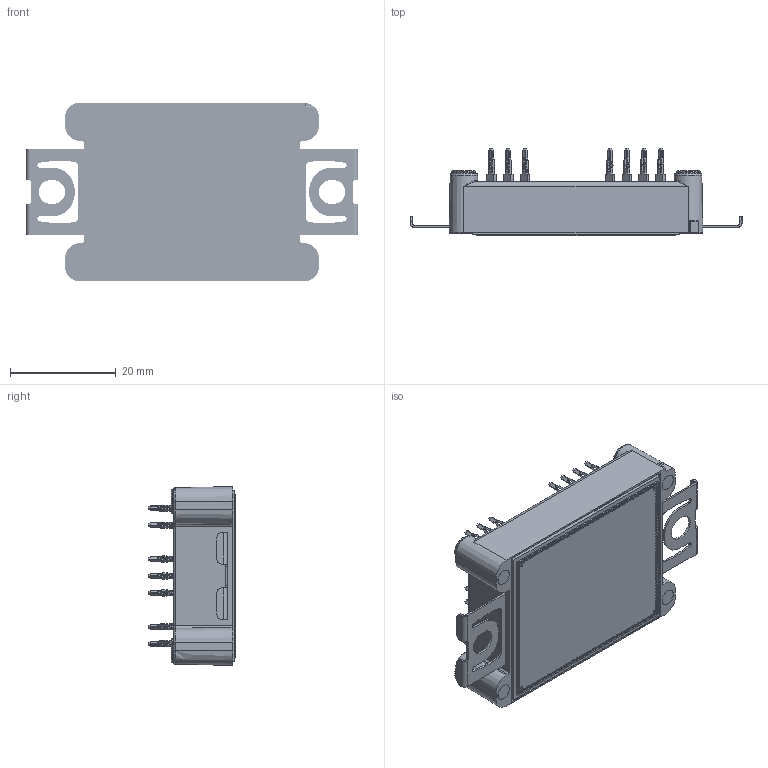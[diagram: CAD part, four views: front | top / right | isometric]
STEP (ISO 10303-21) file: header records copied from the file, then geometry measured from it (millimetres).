
FILE_DESCRIPTION (( 'STEP AP214' ), '1' );
FILE_NAME ('CBB010A12FM4 (2026-07-21).STEP', '2026-07-21T18:30:10', ( '' ), ( '' ), 'SwSTEP 2.0', 'SolidWorks 2025', '' );
FILE_SCHEMA (( 'AUTOMOTIVE_DESIGN' ));
Length unit declared in the file: millimetre
Products named in the file (1): CBB010A12FM4 (2026-07-21)
Bounding box: 62.8 x 16.55 x 33.8 mm (x, y, z)
Volume: 9666.9 mm3; surface area: 12238.1 mm2
Topology: 2 solids, 2 shells, 5934 faces, 16444 edges, 10759 vertices
Faces by surface type: plane 2717, cylinder 2602, torus 458, cone 138, bspline 16, sphere 3
Entity records: 192555 total; most frequent: CARTESIAN_POINT 35227, DIRECTION 34133, ORIENTED_EDGE 32878, EDGE_CURVE 16439, AXIS2_PLACEMENT_3D 12084, VERTEX_POINT 10759, LINE 9965, VECTOR 9965
